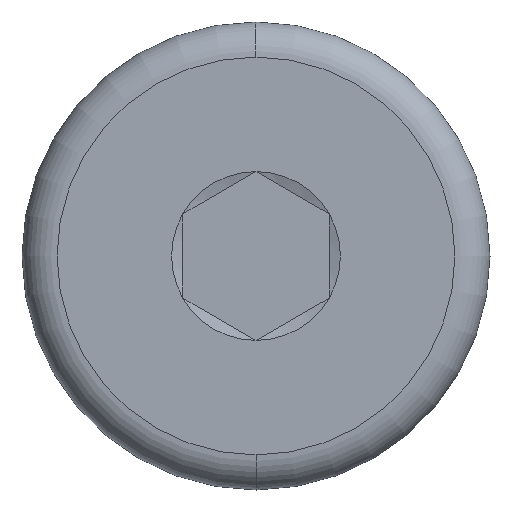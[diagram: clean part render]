
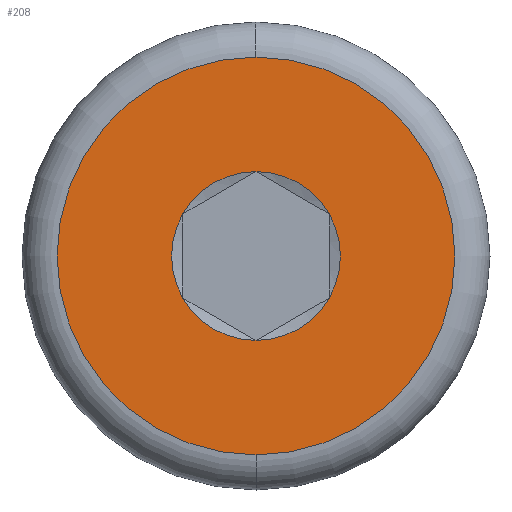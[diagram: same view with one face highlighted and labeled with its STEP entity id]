
A CAD part, left-side view. The second image highlights one B-rep face of the part: STEP entity #208.
In plain terms, the highlighted planar face has unit normal (-1, 0, 0).
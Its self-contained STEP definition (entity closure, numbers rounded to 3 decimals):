
#11 = CARTESIAN_POINT ( 'NONE',  ( 0., 0., 1.443 ) ) ;
#18 = AXIS2_PLACEMENT_3D ( 'NONE', #90, #605, #667 ) ;
#29 = VERTEX_POINT ( 'NONE', #127 ) ;
#36 = EDGE_CURVE ( 'NONE', #346, #527, #204, .T. ) ;
#38 = DIRECTION ( 'NONE',  ( 0., 0., -1. ) ) ;
#43 = VERTEX_POINT ( 'NONE', #646 ) ;
#86 = CARTESIAN_POINT ( 'NONE',  ( 0., 0., 0. ) ) ;
#90 = CARTESIAN_POINT ( 'NONE',  ( 0., 0., 0. ) ) ;
#94 = CARTESIAN_POINT ( 'NONE',  ( 0., 0., 0. ) ) ;
#101 = DIRECTION ( 'NONE',  ( -1., 0., 0. ) ) ;
#104 = ORIENTED_EDGE ( 'NONE', *, *, #485, .F. ) ;
#109 = CARTESIAN_POINT ( 'NONE',  ( 0., 0., 0. ) ) ;
#121 = VERTEX_POINT ( 'NONE', #390 ) ;
#127 = CARTESIAN_POINT ( 'NONE',  ( 0., 1.25, 0.722 ) ) ;
#133 = ORIENTED_EDGE ( 'NONE', *, *, #648, .T. ) ;
#139 = FACE_BOUND ( 'NONE', #201, .T. ) ;
#141 = AXIS2_PLACEMENT_3D ( 'NONE', #109, #628, #160 ) ;
#149 = VERTEX_POINT ( 'NONE', #446 ) ;
#157 = ORIENTED_EDGE ( 'NONE', *, *, #327, .T. ) ;
#160 = DIRECTION ( 'NONE',  ( 0., 0., -1. ) ) ;
#162 = AXIS2_PLACEMENT_3D ( 'NONE', #553, #558, #38 ) ;
#169 = ORIENTED_EDGE ( 'NONE', *, *, #281, .T. ) ;
#178 = CARTESIAN_POINT ( 'NONE',  ( 0., 0., -1.443 ) ) ;
#182 = AXIS2_PLACEMENT_3D ( 'NONE', #86, #618, #295 ) ;
#189 = DIRECTION ( 'NONE',  ( 1., 0., 0. ) ) ;
#191 = ORIENTED_EDGE ( 'NONE', *, *, #644, .F. ) ;
#201 = EDGE_LOOP ( 'NONE', ( #157, #477, #169, #566, #133, #651 ) ) ;
#204 = CIRCLE ( 'NONE', #556, 1.443 ) ;
#207 = CARTESIAN_POINT ( 'NONE',  ( 0., -1.25, -0.722 ) ) ;
#208 = ADVANCED_FACE ( 'NONE', ( #139, #454 ), #344, .T. ) ;
#214 = CIRCLE ( 'NONE', #557, 3.4 ) ;
#249 = CIRCLE ( 'NONE', #419, 1.443 ) ;
#256 = VERTEX_POINT ( 'NONE', #442 ) ;
#260 = EDGE_CURVE ( 'NONE', #342, #149, #676, .T. ) ;
#271 = AXIS2_PLACEMENT_3D ( 'NONE', #493, #189, #396 ) ;
#281 = EDGE_CURVE ( 'NONE', #149, #346, #545, .T. ) ;
#282 = CARTESIAN_POINT ( 'NONE',  ( 0., 0., 0. ) ) ;
#291 = EDGE_CURVE ( 'NONE', #256, #29, #249, .T. ) ;
#295 = DIRECTION ( 'NONE',  ( 0., 0., -1. ) ) ;
#302 = DIRECTION ( 'NONE',  ( 1., 0., 0. ) ) ;
#327 = EDGE_CURVE ( 'NONE', #29, #342, #649, .T. ) ;
#342 = VERTEX_POINT ( 'NONE', #11 ) ;
#344 = PLANE ( 'NONE',  #491 ) ;
#346 = VERTEX_POINT ( 'NONE', #207 ) ;
#381 = DIRECTION ( 'NONE',  ( 1., 0., 0. ) ) ;
#385 = CIRCLE ( 'NONE', #271, 3.4 ) ;
#390 = CARTESIAN_POINT ( 'NONE',  ( 0., 0., -3.4 ) ) ;
#396 = DIRECTION ( 'NONE',  ( 0., 0., -1. ) ) ;
#402 = EDGE_LOOP ( 'NONE', ( #191, #104 ) ) ;
#404 = DIRECTION ( 'NONE',  ( 0., 0., 1. ) ) ;
#419 = AXIS2_PLACEMENT_3D ( 'NONE', #94, #302, #507 ) ;
#439 = DIRECTION ( 'NONE',  ( 1., 0., 0. ) ) ;
#442 = CARTESIAN_POINT ( 'NONE',  ( 0., 1.25, -0.722 ) ) ;
#446 = CARTESIAN_POINT ( 'NONE',  ( 0., -1.25, 0.722 ) ) ;
#454 = FACE_OUTER_BOUND ( 'NONE', #402, .T. ) ;
#477 = ORIENTED_EDGE ( 'NONE', *, *, #260, .T. ) ;
#483 = DIRECTION ( 'NONE',  ( 0., 0., -1. ) ) ;
#485 = EDGE_CURVE ( 'NONE', #43, #121, #214, .T. ) ;
#491 = AXIS2_PLACEMENT_3D ( 'NONE', #661, #101, #404 ) ;
#493 = CARTESIAN_POINT ( 'NONE',  ( 0., 0., 0. ) ) ;
#507 = DIRECTION ( 'NONE',  ( 0., 0., -1. ) ) ;
#527 = VERTEX_POINT ( 'NONE', #178 ) ;
#545 = CIRCLE ( 'NONE', #182, 1.443 ) ;
#548 = DIRECTION ( 'NONE',  ( 0., 0., -1. ) ) ;
#553 = CARTESIAN_POINT ( 'NONE',  ( 0., 0., 0. ) ) ;
#556 = AXIS2_PLACEMENT_3D ( 'NONE', #601, #439, #548 ) ;
#557 = AXIS2_PLACEMENT_3D ( 'NONE', #282, #381, #483 ) ;
#558 = DIRECTION ( 'NONE',  ( 1., 0., 0. ) ) ;
#566 = ORIENTED_EDGE ( 'NONE', *, *, #36, .T. ) ;
#601 = CARTESIAN_POINT ( 'NONE',  ( 0., 0., 0. ) ) ;
#605 = DIRECTION ( 'NONE',  ( 1., 0., 0. ) ) ;
#618 = DIRECTION ( 'NONE',  ( 1., 0., 0. ) ) ;
#628 = DIRECTION ( 'NONE',  ( 1., 0., 0. ) ) ;
#644 = EDGE_CURVE ( 'NONE', #121, #43, #385, .T. ) ;
#646 = CARTESIAN_POINT ( 'NONE',  ( 0., 0., 3.4 ) ) ;
#648 = EDGE_CURVE ( 'NONE', #527, #256, #650, .T. ) ;
#649 = CIRCLE ( 'NONE', #141, 1.443 ) ;
#650 = CIRCLE ( 'NONE', #162, 1.443 ) ;
#651 = ORIENTED_EDGE ( 'NONE', *, *, #291, .T. ) ;
#661 = CARTESIAN_POINT ( 'NONE',  ( 0., 0., 0. ) ) ;
#667 = DIRECTION ( 'NONE',  ( 0., 0., -1. ) ) ;
#676 = CIRCLE ( 'NONE', #18, 1.443 ) ;
